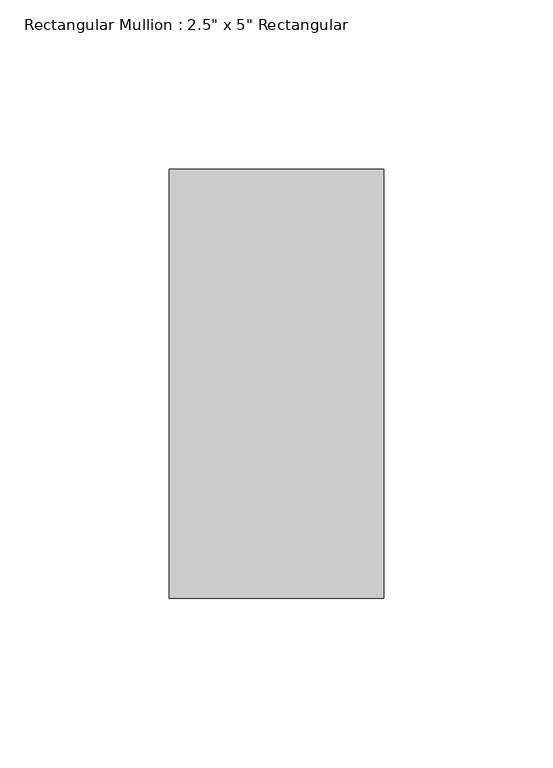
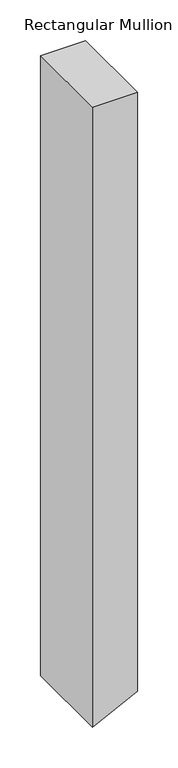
"""IFC4 building model written with IfcOpenShell, lengths in millimetres: member geometry."""

from ifc_helpers import new_model, si_unit, frame, origin, place, context, project, spatial, polyline, outline, extrude, source, transform, mapped, element, save


def member_143c79e4(model_context):
    return source(origin(), model_context, "Body", "SweptSolid", [
        extrude(outline(polyline([(0.0, 31.75), (0.0, -31.75), (-926.3460429, -31.75), (-924.6700745, -28.3980633), (-894.5960429, 31.75), (0.0, 31.75)])), frame((0.0, -63.5, 0.0), z_axis=(0.0, 1.0, 0.0), x_axis=(0.0, 0.0, 1.0)), (0.0, 0.0, 1.0), 127.0),
    ])


if __name__ == "__main__":
    model = new_model("IFC4")
    model_context = context("Model", 3, world=origin())
    ifc_project = project(units=[si_unit("LENGTHUNIT", "METRE", prefix="MILLI")], contexts=[model_context])
    site = spatial("IfcSite", under=ifc_project)
    building = spatial("IfcBuilding", under=site)
    placement = place(None, origin())
    member_shape = member_143c79e4(model_context)
    element("IfcMember", 1, ObjectType="Rectangular Mullion : 2.5\" x 5\" Rectangular", at=placement, inside=building, context=model_context, shape_type="MappedRepresentation", body=[
        mapped(member_shape, transform((0.0, 0.0, 0.0), x_axis=(1.0, 0.0, 0.0), y_axis=(0.0, 1.0, 0.0), z_axis=(0.0, 0.0, 1.0))),
    ])
    save(model, "model.ifc")
